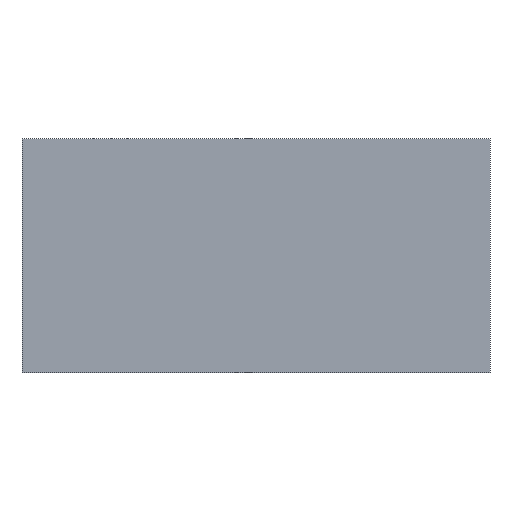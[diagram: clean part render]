
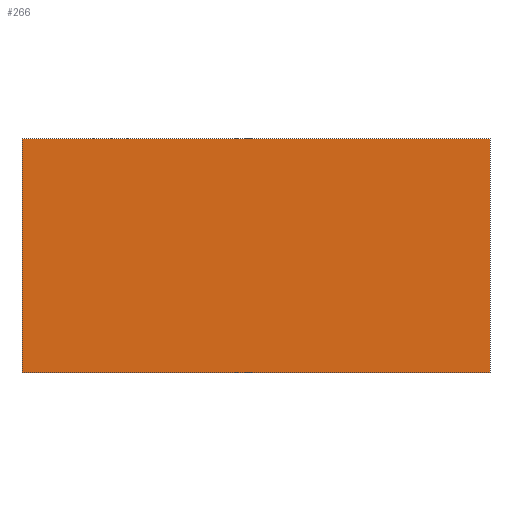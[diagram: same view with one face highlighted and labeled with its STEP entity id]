
A CAD part, front view. The second image highlights one B-rep face of the part: STEP entity #266.
In plain terms, the highlighted planar face has unit normal (0, -1, 0).
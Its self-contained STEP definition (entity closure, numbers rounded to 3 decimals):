
#20=FACE_OUTER_BOUND('',#34,.T.);
#34=EDGE_LOOP('',(#203,#204,#205,#206));
#48=LINE('',#389,#84);
#63=LINE('',#418,#99);
#64=LINE('',#421,#100);
#65=LINE('',#422,#101);
#84=VECTOR('',#318,10.);
#99=VECTOR('',#341,10.);
#100=VECTOR('',#344,10.);
#101=VECTOR('',#345,10.);
#120=VERTEX_POINT('',#386);
#121=VERTEX_POINT('',#388);
#131=VERTEX_POINT('',#416);
#132=VERTEX_POINT('',#420);
#144=EDGE_CURVE('',#120,#121,#48,.T.);
#159=EDGE_CURVE('',#120,#131,#63,.T.);
#160=EDGE_CURVE('',#132,#131,#64,.T.);
#161=EDGE_CURVE('',#121,#132,#65,.T.);
#203=ORIENTED_EDGE('',*,*,#159,.T.);
#204=ORIENTED_EDGE('',*,*,#160,.F.);
#205=ORIENTED_EDGE('',*,*,#161,.F.);
#206=ORIENTED_EDGE('',*,*,#144,.F.);
#252=PLANE('',#300);
#266=ADVANCED_FACE('',(#20),#252,.T.);
#300=AXIS2_PLACEMENT_3D('',#419,#342,#343);
#318=DIRECTION('',(-1.,0.,0.));
#341=DIRECTION('',(0.,0.,1.));
#342=DIRECTION('center_axis',(0.,-1.,0.));
#343=DIRECTION('ref_axis',(1.,0.,0.));
#344=DIRECTION('',(1.,0.,0.));
#345=DIRECTION('',(0.,0.,1.));
#386=CARTESIAN_POINT('',(30.,-25.,-15.));
#388=CARTESIAN_POINT('',(-30.,-25.,-15.));
#389=CARTESIAN_POINT('',(-30.,-25.,-15.));
#416=CARTESIAN_POINT('',(30.,-25.,15.));
#418=CARTESIAN_POINT('',(30.,-25.,0.));
#419=CARTESIAN_POINT('Origin',(-30.,-25.,0.));
#420=CARTESIAN_POINT('',(-30.,-25.,15.));
#421=CARTESIAN_POINT('',(-30.,-25.,15.));
#422=CARTESIAN_POINT('',(-30.,-25.,0.));
